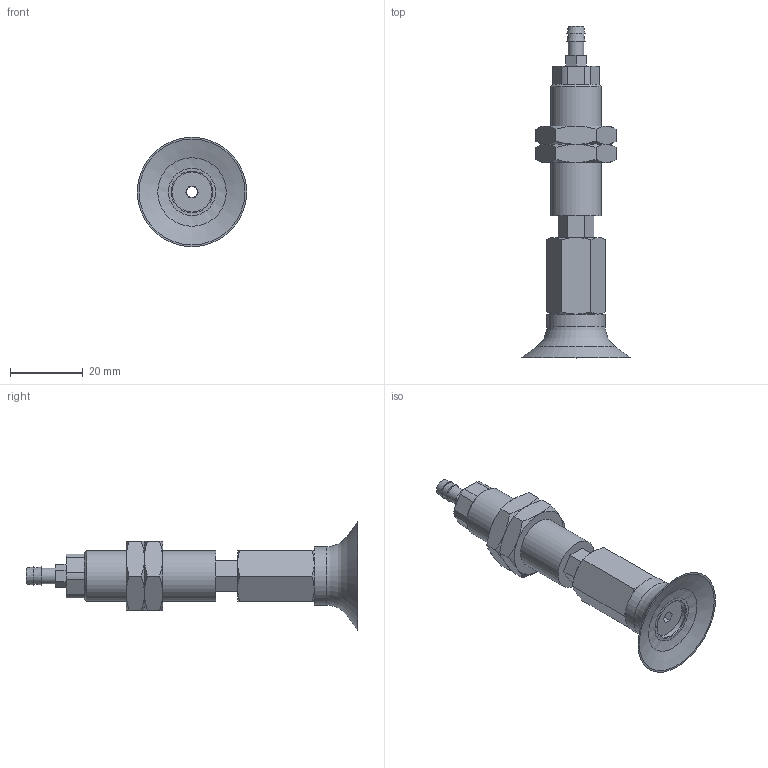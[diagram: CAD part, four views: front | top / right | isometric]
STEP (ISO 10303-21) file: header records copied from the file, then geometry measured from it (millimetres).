
FILE_DESCRIPTION(('STEP AP203'),'1');
FILE_NAME('-T.stp','2025-08-27T03:21:10',(' '),(' '),'Spatial InterOp 3D',' ',' ');
FILE_SCHEMA(('CONFIG_CONTROL_DESIGN'));
Length unit declared in the file: millimetre
Products named in the file (8): BNABPFTH-30-6-※-T; ADAPTER; NAPFTH-30-6-MBODY; TN-PF-30-M6-NAPF; Nut-30-6-h; NAPFTH-30-6-FBODY; BPFG-30-※; T
Assembly tree (8 placements, depth 2):
  BNABPFTH-30-6-※-T
    ADAPTER
    NAPFTH-30-6-MBODY
    TN-PF-30-M6-NAPF
    Nut-30-6-h  x2
    NAPFTH-30-6-FBODY
    BPFG-30-※
    T
Bounding box: 30 x 91 x 30 mm (x, y, z)
Volume: 14147.3 mm3; surface area: 11350.9 mm2
Topology: 8 solids, 8 shells, 157 faces, 337 edges, 206 vertices
Faces by surface type: plane 80, cone 49, cylinder 22, torus 5, bspline 1
Full cylindrical faces by diameter (mm): 3 x4, 4.134 x1, 4.3 x1, 4.917 x1, 5 x1, 6 x2, 11 x2, 12.917 x2, 14 x1, 16 x1
Entity records: 4099 total; most frequent: CARTESIAN_POINT 934, DIRECTION 580, ORIENTED_EDGE 506, EDGE_CURVE 253, AXIS2_PLACEMENT_3D 233, EDGE_LOOP 190, VERTEX_POINT 175, FACE_OUTER_BOUND 155
